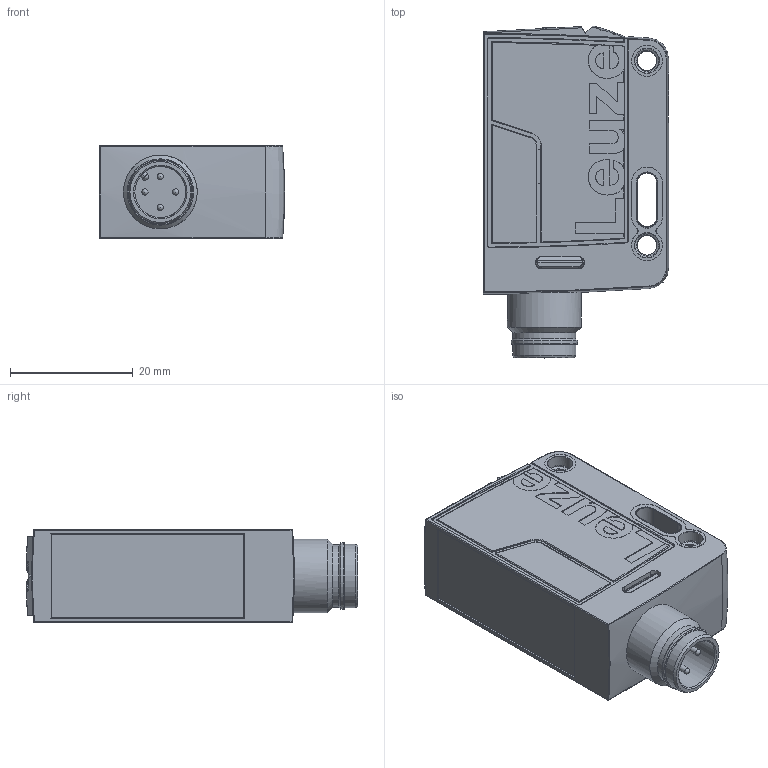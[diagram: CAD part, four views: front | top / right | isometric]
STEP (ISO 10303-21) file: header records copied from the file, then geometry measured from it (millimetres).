
FILE_DESCRIPTION(/* description */ (''),/* implementation_level */ '2;1');
FILE_NAME(/* name */ '3DCAD_SR25C_M12.stp',/* time_stamp */ '2017-03-08T11:13:37+01:00',/* author */ ('CC2'),/* organization */ ('Leuze electronic'),/* preprocessor_version */ 'ST-DEVELOPER v15',/* originating_system */ 'SIEMENS PLM Software NX 8.5',/* authorisation */ '');
FILE_SCHEMA (('AUTOMOTIVE_DESIGN { 1 0 10303 214 3 1 1 1 }'));
Length unit declared in the file: millimetre
Products named in the file (1): 19-102435_00.0
Bounding box: 30.1 x 53.99 x 15.2 mm (x, y, z)
Volume: 18718.9 mm3; surface area: 6426.6 mm2
Topology: 1 solids, 1 shells, 567 faces, 1478 edges, 910 vertices
Faces by surface type: plane 197, cylinder 137, bspline 87, cone 51, torus 35, sphere 33, extrusion 27
Full cylindrical faces by diameter (mm): 1 x4, 4 x34, 4.85 x1, 8.3 x1, 10.2 x1, 10.3 x1, 10.8 x1, 12 x1
Entity records: 29518 total; most frequent: CARTESIAN_POINT 15969, ORIENTED_EDGE 2594, DIRECTION 2215, EDGE_CURVE 1297, AXIS2_PLACEMENT_3D 826, VERTEX_POINT 821, EDGE_LOOP 598, VECTOR 563
